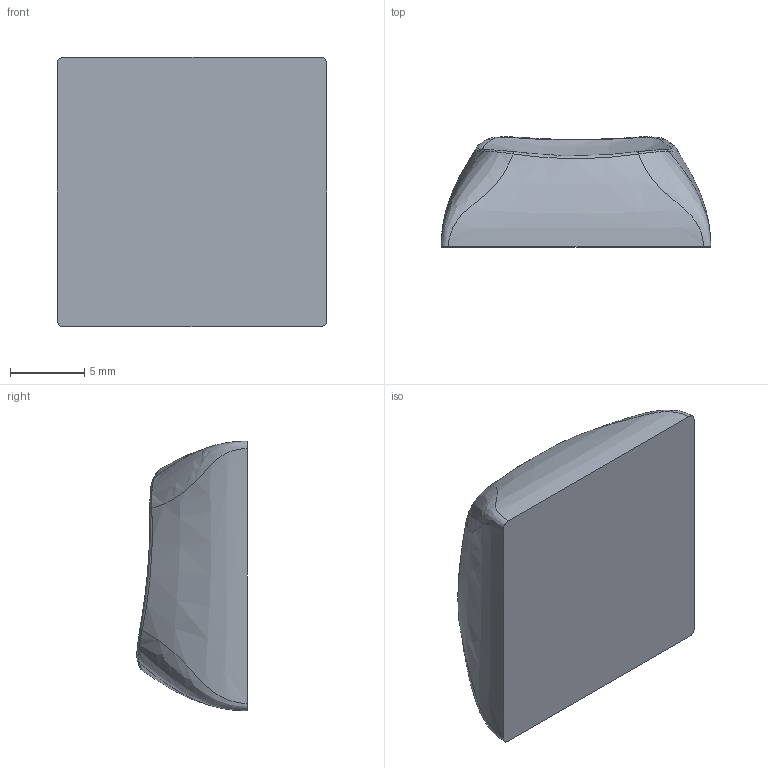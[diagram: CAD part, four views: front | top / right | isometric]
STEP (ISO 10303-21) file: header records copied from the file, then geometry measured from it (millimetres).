
FILE_DESCRIPTION (( 'STEP AP203' ), '1' );
FILE_NAME ('R3_1U_base_v3.2_GMK - Homing Base.STEP', '2023-03-07T10:07:16', ( '' ), ( '' ), 'SwSTEP 2.0', 'SolidWorks 2022', '' );
FILE_SCHEMA (( 'CONFIG_CONTROL_DESIGN' ));
Length unit declared in the file: millimetre
Products named in the file (1): R3_1U_base_v3.2_GMK - Homing Base
Bounding box: 18.2 x 7.45 x 18.2 mm (x, y, z)
Volume: 1740.2 mm3; surface area: 968.3 mm2
Topology: 1 solids, 1 shells, 18 faces, 40 edges, 24 vertices
Faces by surface type: bspline 17, plane 1
Entity records: 3847 total; most frequent: CARTESIAN_POINT 3504, ORIENTED_EDGE 80, EDGE_CURVE 40, B_SPLINE_CURVE_WITH_KNOTS 36, VERTEX_POINT 24, ADVANCED_FACE 18, FACE_OUTER_BOUND 18, EDGE_LOOP 18
